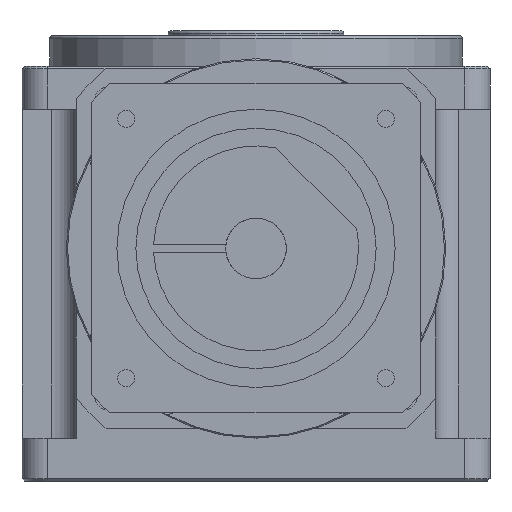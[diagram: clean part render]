
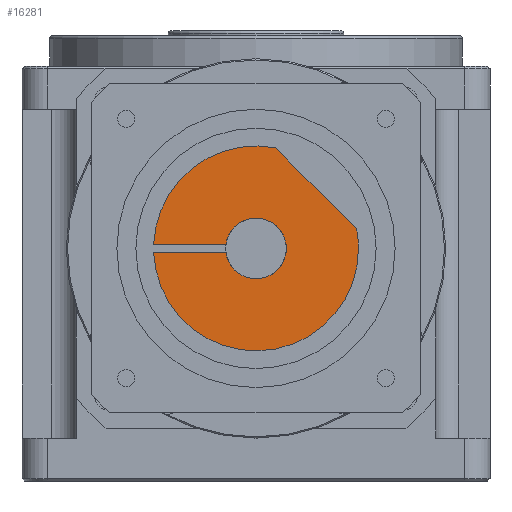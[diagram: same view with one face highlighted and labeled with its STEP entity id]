
A CAD part, front view. The second image highlights one B-rep face of the part: STEP entity #16281.
In plain terms, the highlighted planar face has unit normal (0, -1, 0) as drawn and (0, 0, -1) by its records, which use the part's own axes.
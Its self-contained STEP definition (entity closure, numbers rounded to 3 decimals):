
#141 = CIRCLE ( 'NONE', #10553, 40.5 ) ;
#548 = EDGE_CURVE ( 'NONE', #1451, #837, #2075, .T. ) ;
#686 = DIRECTION ( 'NONE',  ( -1., 0., 0. ) ) ;
#837 = VERTEX_POINT ( 'NONE', #4658 ) ;
#962 = LINE ( 'NONE', #3769, #2843 ) ;
#1090 = CARTESIAN_POINT ( 'NONE',  ( 12., 0., -166. ) ) ;
#1412 = DIRECTION ( 'NONE',  ( -1., 0., 0. ) ) ;
#1451 = VERTEX_POINT ( 'NONE', #17036 ) ;
#1617 = DIRECTION ( 'NONE',  ( 0., 0., -1. ) ) ;
#1654 = VECTOR ( 'NONE', #9103, 1000. ) ;
#2075 = LINE ( 'NONE', #16367, #16729 ) ;
#2385 = DIRECTION ( 'NONE',  ( 0., 0., -1. ) ) ;
#2478 = DIRECTION ( 'NONE',  ( -1., 0., 0. ) ) ;
#2826 = AXIS2_PLACEMENT_3D ( 'NONE', #14698, #14336, #5948 ) ;
#2840 = EDGE_LOOP ( 'NONE', ( #7239, #11289, #15449, #9561, #12560, #8914, #16324, #15724 ) ) ;
#2843 = VECTOR ( 'NONE', #13879, 1000. ) ;
#3324 = EDGE_CURVE ( 'NONE', #13481, #9460, #3432, .T. ) ;
#3432 = LINE ( 'NONE', #11791, #1654 ) ;
#3629 = CIRCLE ( 'NONE', #15755, 12. ) ;
#3769 = CARTESIAN_POINT ( 'NONE',  ( 23.75, -23.75, -166. ) ) ;
#3923 = CIRCLE ( 'NONE', #9258, 40.5 ) ;
#4658 = CARTESIAN_POINT ( 'NONE',  ( -40.472, -1.5, -166. ) ) ;
#4777 = CIRCLE ( 'NONE', #11305, 40.5 ) ;
#5427 = CARTESIAN_POINT ( 'NONE',  ( 0., 0., -166. ) ) ;
#5847 = DIRECTION ( 'NONE',  ( 0., 0., -1. ) ) ;
#5948 = DIRECTION ( 'NONE',  ( -1., 0., 0. ) ) ;
#7186 = DIRECTION ( 'NONE',  ( -1., 0., 0. ) ) ;
#7239 = ORIENTED_EDGE ( 'NONE', *, *, #17910, .F. ) ;
#8725 = VERTEX_POINT ( 'NONE', #1090 ) ;
#8914 = ORIENTED_EDGE ( 'NONE', *, *, #3324, .F. ) ;
#9103 = DIRECTION ( 'NONE',  ( 1., 0., 0. ) ) ;
#9189 = PLANE ( 'NONE',  #16716 ) ;
#9258 = AXIS2_PLACEMENT_3D ( 'NONE', #9545, #2385, #2478 ) ;
#9460 = VERTEX_POINT ( 'NONE', #16813 ) ;
#9545 = CARTESIAN_POINT ( 'NONE',  ( 0., 0., -166. ) ) ;
#9561 = ORIENTED_EDGE ( 'NONE', *, *, #13045, .F. ) ;
#9653 = EDGE_CURVE ( 'NONE', #10024, #17367, #4777, .T. ) ;
#10024 = VERTEX_POINT ( 'NONE', #16111 ) ;
#10553 = AXIS2_PLACEMENT_3D ( 'NONE', #12885, #1617, #7186 ) ;
#11289 = ORIENTED_EDGE ( 'NONE', *, *, #13279, .T. ) ;
#11305 = AXIS2_PLACEMENT_3D ( 'NONE', #14589, #5847, #17183 ) ;
#11791 = CARTESIAN_POINT ( 'NONE',  ( -8.592, 1.5, -166. ) ) ;
#12170 = DIRECTION ( 'NONE',  ( -1., 0., 0. ) ) ;
#12424 = DIRECTION ( 'NONE',  ( 0., 0., -1. ) ) ;
#12560 = ORIENTED_EDGE ( 'NONE', *, *, #17469, .F. ) ;
#12885 = CARTESIAN_POINT ( 'NONE',  ( 0., 0., -166. ) ) ;
#13045 = EDGE_CURVE ( 'NONE', #8725, #1451, #3629, .T. ) ;
#13279 = EDGE_CURVE ( 'NONE', #13836, #837, #3923, .T. ) ;
#13290 = CARTESIAN_POINT ( 'NONE',  ( 0., 0., -166. ) ) ;
#13481 = VERTEX_POINT ( 'NONE', #15923 ) ;
#13836 = VERTEX_POINT ( 'NONE', #17398 ) ;
#13879 = DIRECTION ( 'NONE',  ( 0.707, 0.707, 0. ) ) ;
#14336 = DIRECTION ( 'NONE',  ( 0., 0., -1. ) ) ;
#14575 = DIRECTION ( 'NONE',  ( 0., 0., -1. ) ) ;
#14589 = CARTESIAN_POINT ( 'NONE',  ( 0., 0., -166. ) ) ;
#14698 = CARTESIAN_POINT ( 'NONE',  ( 0., 0., -166. ) ) ;
#15005 = CIRCLE ( 'NONE', #2826, 12. ) ;
#15449 = ORIENTED_EDGE ( 'NONE', *, *, #548, .F. ) ;
#15724 = ORIENTED_EDGE ( 'NONE', *, *, #9653, .T. ) ;
#15755 = AXIS2_PLACEMENT_3D ( 'NONE', #5427, #12424, #1412 ) ;
#15923 = CARTESIAN_POINT ( 'NONE',  ( -40.472, 1.5, -166. ) ) ;
#15979 = CARTESIAN_POINT ( 'NONE',  ( 39.752, -7.748, -166. ) ) ;
#16042 = FACE_OUTER_BOUND ( 'NONE', #2840, .T. ) ;
#16111 = CARTESIAN_POINT ( 'NONE',  ( 40.5, 0., -166. ) ) ;
#16281 = ADVANCED_FACE ( 'NONE', ( #16042 ), #9189, .T. ) ;
#16324 = ORIENTED_EDGE ( 'NONE', *, *, #17004, .T. ) ;
#16367 = CARTESIAN_POINT ( 'NONE',  ( -8.592, -1.5, -166. ) ) ;
#16716 = AXIS2_PLACEMENT_3D ( 'NONE', #13290, #14575, #12170 ) ;
#16729 = VECTOR ( 'NONE', #686, 1000. ) ;
#16813 = CARTESIAN_POINT ( 'NONE',  ( -11.906, 1.5, -166. ) ) ;
#17004 = EDGE_CURVE ( 'NONE', #13481, #10024, #141, .T. ) ;
#17036 = CARTESIAN_POINT ( 'NONE',  ( -11.906, -1.5, -166. ) ) ;
#17183 = DIRECTION ( 'NONE',  ( -1., 0., 0. ) ) ;
#17367 = VERTEX_POINT ( 'NONE', #15979 ) ;
#17398 = CARTESIAN_POINT ( 'NONE',  ( 7.748, -39.752, -166. ) ) ;
#17469 = EDGE_CURVE ( 'NONE', #9460, #8725, #15005, .T. ) ;
#17910 = EDGE_CURVE ( 'NONE', #13836, #17367, #962, .T. ) ;
